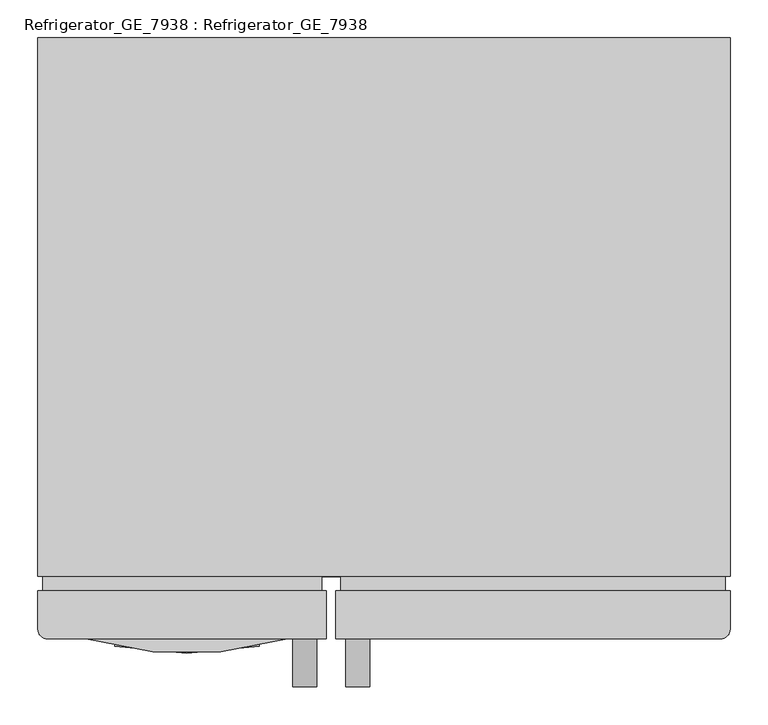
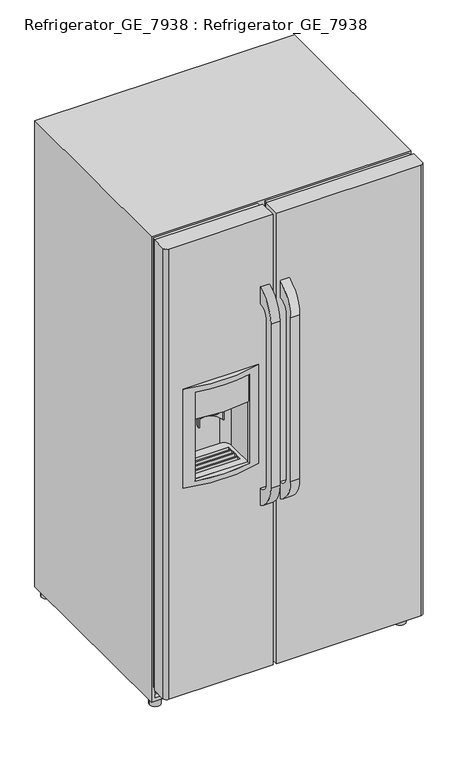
"""IFC4 building model written with IfcOpenShell, lengths in millimetres: furniture geometry, Refrigerator_GE_7938 : Refrigerator_GE_7938."""

from ifc_helpers import new_model, si_unit, point, frame, frame_2d, origin, origin_with_axes, place, context, project, spatial, polyline, circle_curve, trimmed, segment, composite_curve, outline, extrude, source, transform, mapped, element, save
from ifc_brep_helpers import plane_surface, cylinder_surface, revolved_surface, advanced_brep


def refrigerator_ge_7938_refrigerator_ge_7938_6d497281(model_context):
    return source(origin(), model_context, "Body", "SolidModel", [
        extrude(outline(composite_curve([segment(trimmed(circle_curve(frame_2d((-379.839566, 106.3437411)), 19.05), [point((-398.889566, 106.3437411))], [point((-360.789566, 106.3437411))], False, "CARTESIAN"), True, "CONTINUOUS"), segment(trimmed(circle_curve(frame_2d((-379.839566, 106.3437411)), 19.05), [point((-360.789566, 106.3437411))], [point((-398.889566, 106.3437411))], False, "CARTESIAN"), True, "CONTINUOUS")], self_intersect=False)), origin_with_axes(), (0.0, 0.0, 1.0), 25.4),
        extrude(outline(composite_curve([segment(trimmed(circle_curve(frame_2d((483.760434, 106.3437411)), 19.05), [point((464.710434, 106.3437411))], [point((502.810434, 106.3437411))], False, "CARTESIAN"), True, "CONTINUOUS"), segment(trimmed(circle_curve(frame_2d((483.760434, 106.3437411)), 19.05), [point((502.810434, 106.3437411))], [point((464.710434, 106.3437411))], False, "CARTESIAN"), True, "CONTINUOUS")], self_intersect=False)), origin_with_axes(), (0.0, 0.0, 1.0), 25.4),
        extrude(outline(composite_curve([segment(trimmed(circle_curve(frame_2d((-379.839566, 766.7437411)), 19.05), [point((-398.889566, 766.7437411))], [point((-360.789566, 766.7437411))], False, "CARTESIAN"), True, "CONTINUOUS"), segment(trimmed(circle_curve(frame_2d((-379.839566, 766.7437411)), 19.05), [point((-360.789566, 766.7437411))], [point((-398.889566, 766.7437411))], False, "CARTESIAN"), True, "CONTINUOUS")], self_intersect=False)), origin_with_axes(), (0.0, 0.0, 1.0), 25.4),
        extrude(outline(composite_curve([segment(trimmed(circle_curve(frame_2d((483.760434, 766.7437411)), 19.05), [point((464.710434, 766.7437411))], [point((502.810434, 766.7437411))], False, "CARTESIAN"), True, "CONTINUOUS"), segment(trimmed(circle_curve(frame_2d((483.760434, 766.7437411)), 19.05), [point((502.810434, 766.7437411))], [point((464.710434, 766.7437411))], False, "CARTESIAN"), True, "CONTINUOUS")], self_intersect=False)), origin_with_axes(), (0.0, 0.0, 1.0), 25.4),
        advanced_brep(
        [(-76.2, 0.0, 1219.2), (-342.9, 0.0, 1219.2), (-76.2, 0.0, 850.9), (-342.9, 0.0, 850.9), (-304.8, 0.0, 1200.15), (-304.8, 0.0, 869.95), (-114.3, 0.0, 869.95), (-114.3, 0.0, 1200.15), (-304.8, -9.427796, 869.95), (-304.8, -9.427796, 1200.15), (-114.3, -9.427796, 1200.15), (-114.3, -9.427796, 869.95)],
        [
            (0, 1),
            (1, 0, circle_curve(frame((-209.55, 457.2, 1219.2), z_axis=(0.0, 0.0, 1.0), x_axis=(1.0, 0.0, 0.0)), 476.25)),
            (2, 3, circle_curve(frame((-209.55, 457.2, 850.9), z_axis=(0.0, 0.0, -1.0), x_axis=(1.0, 0.0, 0.0)), 476.25)),
            (3, 2),
            (0, 2),
            (3, 1),
            (4, 5),
            (5, 6),
            (6, 7),
            (7, 4),
            (8, 9),
            (9, 10, circle_curve(frame((-209.55, 457.2, 1200.15), z_axis=(0.0, 0.0, 1.0), x_axis=(1.0, 0.0, 0.0)), 476.25)),
            (10, 11),
            (11, 8, circle_curve(frame((-209.55, 457.2, 869.95), z_axis=(0.0, 0.0, -1.0), x_axis=(1.0, 0.0, 0.0)), 476.25)),
            (8, 5),
            (4, 9),
            (7, 10),
            (6, 11),
        ],
        [
            plane_surface(frame((-76.2, 0.0, 1219.2), z_axis=(0.0, 0.0, 1.0), x_axis=(-1.0, 0.0, 0.0))),
            plane_surface(frame((-76.2, 0.0, 850.9), z_axis=(0.0, 0.0, -1.0), x_axis=(1.0, 0.0, 0.0))),
            plane_surface(frame((-76.2, 0.0, 1219.2), z_axis=(0.0, 1.0, 0.0), x_axis=(0.0, 0.0, -1.0))),
            cylinder_surface(frame((-209.55, 457.2, 850.9), z_axis=(0.0, 0.0, 1.0), x_axis=(1.0, 0.0, 0.0)), 476.25),
            plane_surface(frame((-304.8, 0.0, 869.95), z_axis=(1.0, 0.0, 0.0), x_axis=(0.0, -1.0, 0.0))),
            plane_surface(frame((-304.8, 0.0, 1200.15), z_axis=(0.0, 0.0, -1.0), x_axis=(0.0, -1.0, 0.0))),
            plane_surface(frame((-114.3, 0.0, 1200.15), z_axis=(-1.0, 0.0, 0.0), x_axis=(0.0, -1.0, 0.0))),
            plane_surface(frame((-114.3, 0.0, 869.95), z_axis=(0.0, 0.0, 1.0), x_axis=(0.0, -1.0, 0.0))),
        ],
        [
            (0, [[1, 2]]),
            (1, [[3, 4]]),
            (2, [[-1, 5, -4, 6], [7, 8, 9, 10]]),
            (3, [[-2, -6, -3, -5], [11, 12, 13, 14]]),
            (4, [[15, -7, 16, -11]]),
            (5, [[-16, -10, 17, -12]]),
            (6, [[-17, -9, 18, -13]]),
            (7, [[-15, -14, -18, -8]]),
        ],
    ),
        advanced_brep(
        [(-25.4, 63.5, 1758.95), (-406.4, 63.5, 1758.95), (-406.4, 12.7, 1758.95), (-393.7, 0.0, 1758.95), (-25.4, 0.0, 1758.95), (-25.4, 63.5, 82.55), (-25.4, 0.0, 82.55), (-393.7, 0.0, 82.55), (-406.4, 12.7, 82.55), (-406.4, 63.5, 82.55), (-307.975, 63.5, 850.9), (-111.125, 63.5, 850.9), (-111.125, 63.5, 1098.55), (-307.975, 63.5, 1098.55), (-111.125, 0.0, 850.9), (-307.975, 0.0, 850.9), (-307.975, 0.0, 1098.55), (-304.8, 0.0, 1098.55), (-114.3, 0.0, 1098.55), (-111.125, 0.0, 1098.55)],
        [
            (0, 1),
            (1, 2),
            (2, 3, circle_curve(frame((-393.7, 12.7, 1758.95), z_axis=(0.0, 0.0, 1.0), x_axis=(1.0, 0.0, 0.0)), 12.7)),
            (3, 4),
            (4, 0),
            (5, 6),
            (6, 7),
            (7, 8, circle_curve(frame((-393.7, 12.7, 82.55), z_axis=(0.0, 0.0, -1.0), x_axis=(1.0, 0.0, 0.0)), 12.7)),
            (8, 9),
            (9, 5),
            (0, 5),
            (9, 1),
            (10, 11),
            (11, 12),
            (12, 13),
            (13, 10),
            (8, 2),
            (7, 3),
            (6, 4),
            (14, 15),
            (15, 16),
            (16, 17),
            (17, 18),
            (18, 19),
            (19, 14),
            (14, 11),
            (10, 15),
            (16, 13),
            (12, 19),
        ],
        [
            plane_surface(frame((-25.4, 63.5, 1758.95), z_axis=(0.0, 0.0, 1.0), x_axis=(-1.0, 0.0, 0.0))),
            plane_surface(frame((-25.4, 63.5, 82.55), z_axis=(0.0, 0.0, -1.0), x_axis=(1.0, 0.0, 0.0))),
            plane_surface(frame((-25.4, 63.5, 1758.95), z_axis=(0.0, 1.0, 0.0), x_axis=(0.0, 0.0, -1.0))),
            plane_surface(frame((-406.4, 63.5, 1758.95), z_axis=(-1.0, 0.0, 0.0), x_axis=(0.0, 0.0, -1.0))),
            cylinder_surface(frame((-393.7, 12.7, 82.55), z_axis=(0.0, 0.0, 1.0), x_axis=(1.0, 0.0, 0.0)), 12.7),
            plane_surface(frame((-393.7, 0.0, 1758.95), z_axis=(0.0, -1.0, 0.0), x_axis=(0.0, 0.0, -1.0))),
            plane_surface(frame((-25.4, 0.0, 1758.95), z_axis=(1.0, 0.0, 0.0), x_axis=(0.0, 0.0, -1.0))),
            plane_surface(frame((-307.975, 0.0, 850.9), z_axis=(0.0, 0.0, 1.0), x_axis=(0.0, 1.0, 0.0))),
            plane_surface(frame((-307.975, 0.0, 1098.55), z_axis=(0.0, 0.0, -1.0), x_axis=(0.0, -1.0, 0.0))),
            plane_surface(frame((-307.975, 0.0, 850.9), z_axis=(1.0, 0.0, 0.0), x_axis=(0.0, 0.0, 1.0))),
            plane_surface(frame((-111.125, 101.6, 850.9), z_axis=(-1.0, 0.0, 0.0), x_axis=(0.0, 0.0, 1.0))),
        ],
        [
            (0, [[1, 2, 3, 4, 5]]),
            (1, [[6, 7, 8, 9, 10]]),
            (2, [[-1, 11, -10, 12], [13, 14, 15, 16]]),
            (3, [[-2, -12, -9, 17]]),
            (4, [[-3, -17, -8, 18]]),
            (5, [[-4, -18, -7, 19], [20, 21, 22, 23, 24, 25]]),
            (6, [[-5, -19, -6, -11]]),
            (7, [[26, -13, 27, -20]]),
            (8, [[28, -15, 29, -24, -23, -22]]),
            (9, [[-27, -16, -28, -21]]),
            (10, [[-26, -25, -29, -14]]),
        ],
    ),
        advanced_brep(
        [(-12.7, 63.5, 1758.95), (-12.7, 0.0, 1758.95), (495.3, 0.0, 1758.95), (508.0, 12.7, 1758.95), (508.0, 63.5, 1758.95), (-12.7, 63.5, 82.55), (508.0, 63.5, 82.55), (508.0, 12.7, 82.55), (495.3, 0.0, 82.55), (-12.7, 0.0, 82.55)],
        [
            (0, 1),
            (1, 2),
            (2, 3, circle_curve(frame((495.3, 12.7, 1758.95), z_axis=(0.0, 0.0, 1.0), x_axis=(1.0, 0.0, 0.0)), 12.7)),
            (3, 4),
            (4, 0),
            (5, 6),
            (6, 7),
            (7, 8, circle_curve(frame((495.3, 12.7, 82.55), z_axis=(0.0, 0.0, -1.0), x_axis=(1.0, 0.0, 0.0)), 12.7)),
            (8, 9),
            (9, 5),
            (0, 5),
            (9, 1),
            (8, 2),
            (7, 3),
            (6, 4),
        ],
        [
            plane_surface(frame((-25.4, 63.5, 1758.95), z_axis=(0.0, 0.0, 1.0), x_axis=(-1.0, 0.0, 0.0))),
            plane_surface(frame((-25.4, 63.5, 82.55), z_axis=(0.0, 0.0, -1.0), x_axis=(1.0, 0.0, 0.0))),
            plane_surface(frame((-12.7, 63.5, 1758.95), z_axis=(-1.0, 0.0, 0.0), x_axis=(0.0, 0.0, -1.0))),
            plane_surface(frame((-12.7, 0.0, 1758.95), z_axis=(0.0, -1.0, 0.0), x_axis=(0.0, 0.0, -1.0))),
            cylinder_surface(frame((495.3, 12.7, 82.55), z_axis=(0.0, 0.0, 1.0), x_axis=(1.0, 0.0, 0.0)), 12.7),
            plane_surface(frame((508.0, 12.7, 1758.95), z_axis=(1.0, 0.0, 0.0), x_axis=(0.0, 0.0, -1.0))),
            plane_surface(frame((508.0, 63.5, 1758.95), z_axis=(0.0, 1.0, 0.0), x_axis=(0.0, 0.0, -1.0))),
        ],
        [
            (0, [[1, 2, 3, 4, 5]]),
            (1, [[6, 7, 8, 9, 10]]),
            (2, [[-1, 11, -10, 12]]),
            (3, [[-2, -12, -9, 13]]),
            (4, [[-3, -13, -8, 14]]),
            (5, [[-4, -14, -7, 15]]),
            (6, [[-5, -15, -6, -11]]),
        ],
    ),
        extrude(outline(polyline([(1752.6, -31.75), (1752.6, -400.05), (82.55, -400.05), (82.55, -31.75), (1752.6, -31.75)]), holes=[polyline([(850.9, -111.125), (850.9, -307.975), (1098.55, -307.975), (1098.55, -111.125), (850.9, -111.125)])]), frame((0.0, 63.5, 0.0), z_axis=(0.0, 1.0, 0.0), x_axis=(0.0, 0.0, 1.0)), (0.0, 0.0, 1.0), 19.05),
        extrude(outline(polyline([(-6.35, 63.5), (-6.35, 82.55), (501.65, 82.55), (501.65, 63.5), (-6.35, 63.5)])), frame((0.0, 0.0, 82.55), z_axis=(0.0, 0.0, 1.0), x_axis=(1.0, 0.0, 0.0)), (0.0, 0.0, 1.0), 1670.05),
        advanced_brep(
        [(508.0, 793.75, 1758.95), (-406.4, 793.75, 1758.95), (-406.4, 82.55, 1758.95), (508.0, 82.55, 1758.95), (508.0, 793.75, 25.4), (508.0, 82.55, 25.4), (-406.4, 82.55, 25.4), (-406.4, 793.75, 25.4), (-111.125, 82.55, 850.9), (-307.975, 82.55, 850.9), (-307.975, 82.55, 1098.55), (-111.125, 82.55, 1098.55), (495.3, 82.55, 38.1), (-393.7, 82.55, 38.1), (-393.7, 82.55, 50.8), (495.3, 82.55, 50.8), (495.3, 82.55, 57.15), (-393.7, 82.55, 57.15), (-393.7, 82.55, 69.85), (495.3, 82.55, 69.85), (-111.125, 101.6, 850.9), (-139.7, 130.175, 850.9), (-279.4, 130.175, 850.9), (-307.975, 101.6, 850.9), (-307.975, 101.6, 1098.55), (-279.4, 130.175, 1098.55), (-139.7, 130.175, 1098.55), (-111.125, 101.6, 1098.55), (-393.7, 107.95, 38.1), (495.3, 107.95, 38.1), (495.3, 107.95, 50.8), (-393.7, 107.95, 50.8), (-393.7, 107.95, 57.15), (495.3, 107.95, 57.15), (495.3, 107.95, 69.85), (-393.7, 107.95, 69.85)],
        [
            (0, 1),
            (1, 2),
            (2, 3),
            (3, 0),
            (4, 5),
            (5, 6),
            (6, 7),
            (7, 4),
            (0, 4),
            (7, 1),
            (6, 2),
            (5, 3),
            (8, 9),
            (9, 10),
            (10, 11),
            (11, 8),
            (12, 13),
            (13, 14),
            (14, 15),
            (15, 12),
            (16, 17),
            (17, 18),
            (18, 19),
            (19, 16),
            (20, 21, circle_curve(frame((-139.7, 101.6, 850.9), z_axis=(0.0, 0.0, 1.0), x_axis=(1.0, 0.0, 0.0)), 28.575)),
            (21, 22),
            (22, 23, circle_curve(frame((-279.4, 101.6, 850.9), z_axis=(0.0, 0.0, 1.0), x_axis=(1.0, 0.0, 0.0)), 28.575)),
            (23, 9),
            (8, 20),
            (24, 25, circle_curve(frame((-279.4, 101.6, 1098.55), z_axis=(0.0, 0.0, -1.0), x_axis=(1.0, 0.0, 0.0)), 28.575)),
            (25, 26),
            (26, 27, circle_curve(frame((-139.7, 101.6, 1098.55), z_axis=(0.0, 0.0, -1.0), x_axis=(1.0, 0.0, 0.0)), 28.575)),
            (27, 11),
            (10, 24),
            (23, 24),
            (22, 25),
            (21, 26),
            (20, 27),
            (28, 29),
            (29, 30),
            (30, 31),
            (31, 28),
            (32, 33),
            (33, 34),
            (34, 35),
            (35, 32),
            (28, 13),
            (12, 29),
            (15, 30),
            (14, 31),
            (32, 17),
            (16, 33),
            (19, 34),
            (18, 35),
        ],
        [
            plane_surface(frame((-406.4, 793.75, 1758.95), z_axis=(0.0, 0.0, 1.0), x_axis=(-1.0, 0.0, 0.0))),
            plane_surface(frame((-406.4, 793.75, 25.4), z_axis=(0.0, 0.0, -1.0), x_axis=(1.0, 0.0, 0.0))),
            plane_surface(frame((508.0, 793.75, 1758.95), z_axis=(0.0, 1.0, 0.0), x_axis=(0.0, 0.0, -1.0))),
            plane_surface(frame((-406.4, 793.75, 1758.95), z_axis=(-1.0, 0.0, 0.0), x_axis=(0.0, 0.0, -1.0))),
            plane_surface(frame((-406.4, 82.55, 1758.95), z_axis=(0.0, -1.0, 0.0), x_axis=(0.0, 0.0, -1.0))),
            plane_surface(frame((508.0, 82.55, 1758.95), z_axis=(1.0, 0.0, 0.0), x_axis=(0.0, 0.0, -1.0))),
            plane_surface(frame((-307.975, 0.0, 850.9), z_axis=(0.0, 0.0, 1.0), x_axis=(0.0, 1.0, 0.0))),
            plane_surface(frame((-307.975, 0.0, 1098.55), z_axis=(0.0, 0.0, -1.0), x_axis=(0.0, -1.0, 0.0))),
            plane_surface(frame((-307.975, 0.0, 850.9), z_axis=(1.0, 0.0, 0.0), x_axis=(0.0, 0.0, 1.0))),
            revolved_surface(polyline([(-250.825, 101.6, 850.9), (-250.825, 101.6, 1098.55)]), (-279.4, 101.6, 1098.55), (0.0, 0.0, -1.0)),
            plane_surface(frame((-279.4, 130.175, 850.9), z_axis=(0.0, -1.0, 0.0), x_axis=(0.0, 0.0, 1.0))),
            revolved_surface(polyline([(-111.12499999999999, 101.6, 850.9), (-111.12499999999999, 101.6, 1098.55)]), (-139.7, 101.6, 1098.55), (0.0, 0.0, -1.0)),
            plane_surface(frame((-111.125, 101.6, 850.9), z_axis=(-1.0, 0.0, 0.0), x_axis=(0.0, 0.0, 1.0))),
            plane_surface(frame((-406.4, 107.95, 38.1), z_axis=(0.0, -1.0, 0.0), x_axis=(-1.0, 0.0, 0.0))),
            plane_surface(frame((-393.7, 82.55, 38.1), z_axis=(0.0, 0.0, 1.0), x_axis=(0.0, 1.0, 0.0))),
            plane_surface(frame((495.3, 82.55, 38.1), z_axis=(-1.0, 0.0, 0.0), x_axis=(0.0, 1.0, 0.0))),
            plane_surface(frame((495.3, 82.55, 50.8), z_axis=(0.0, 0.0, -1.0), x_axis=(0.0, 1.0, 0.0))),
            plane_surface(frame((-393.7, 82.55, 50.8), z_axis=(1.0, 0.0, 0.0), x_axis=(0.0, 1.0, 0.0))),
            plane_surface(frame((-393.7, 82.55, 57.15), z_axis=(0.0, 0.0, 1.0), x_axis=(0.0, 1.0, 0.0))),
            plane_surface(frame((495.3, 82.55, 57.15), z_axis=(-1.0, 0.0, 0.0), x_axis=(0.0, 1.0, 0.0))),
            plane_surface(frame((495.3, 82.55, 69.85), z_axis=(0.0, 0.0, -1.0), x_axis=(0.0, 1.0, 0.0))),
            plane_surface(frame((-393.7, 82.55, 69.85), z_axis=(1.0, 0.0, 0.0), x_axis=(0.0, 1.0, 0.0))),
        ],
        [
            (0, [[1, 2, 3, 4]]),
            (1, [[5, 6, 7, 8]]),
            (2, [[-1, 9, -8, 10]]),
            (3, [[-2, -10, -7, 11]]),
            (4, [[-3, -11, -6, 12], [13, 14, 15, 16], [17, 18, 19, 20], [21, 22, 23, 24]]),
            (5, [[-4, -12, -5, -9]]),
            (6, [[25, 26, 27, 28, -13, 29]]),
            (7, [[30, 31, 32, 33, -15, 34]]),
            (8, [[35, -34, -14, -28]]),
            (9, [[-27, 36, -30, -35]]),
            (10, [[-26, 37, -31, -36]]),
            (11, [[-25, 38, -32, -37]]),
            (12, [[-38, -29, -16, -33]]),
            (13, [[39, 40, 41, 42]]),
            (13, [[43, 44, 45, 46]]),
            (14, [[-39, 47, -17, 48]]),
            (15, [[-40, -48, -20, 49]]),
            (16, [[-41, -49, -19, 50]]),
            (17, [[-42, -50, -18, -47]]),
            (18, [[-43, 51, -21, 52]]),
            (19, [[-44, -52, -24, 53]]),
            (20, [[-45, -53, -23, 54]]),
            (21, [[-46, -54, -22, -51]]),
        ],
    ),
        extrude(outline(composite_curve([segment(polyline([(-63.5, 793.75), (-63.5, 1403.35)]), True, "CONTINUOUS"), segment(trimmed(circle_curve(frame_2d((49.53, 1403.35)), 113.03), [point((-63.5, 1403.35))], [point((0.0, 1504.95))], False, "CARTESIAN"), True, "CONTINUOUS"), segment(polyline([(0.0, 1504.95), (0.0, 1441.45)]), True, "CONTINUOUS"), segment(trimmed(circle_curve(frame_2d((0.0, 1403.35)), 38.1), [point((0.0, 1441.45))], [point((-38.1, 1403.35))], True, "CARTESIAN"), True, "CONTINUOUS"), segment(polyline([(-38.1, 1403.35), (-38.1, 793.75)]), True, "CONTINUOUS"), segment(trimmed(circle_curve(frame_2d((0.0, 793.75)), 38.1), [point((-38.1, 793.75))], [point((0.0, 755.65))], True, "CARTESIAN"), True, "CONTINUOUS"), segment(polyline([(0.0, 755.65), (0.0, 692.15)]), True, "CONTINUOUS"), segment(trimmed(circle_curve(frame_2d((49.53, 793.75)), 113.03), [point((0.0, 692.15))], [point((-63.5, 793.75))], False, "CARTESIAN"), True, "CONTINUOUS")], self_intersect=False)), frame((-69.85, 0.0, 0.0), z_axis=(1.0, 0.0, 0.0), x_axis=(0.0, 1.0, 0.0)), (0.0, 0.0, 1.0), 31.75),
        extrude(outline(composite_curve([segment(polyline([(-63.5, 793.75), (-63.5, 1403.35)]), True, "CONTINUOUS"), segment(trimmed(circle_curve(frame_2d((49.53, 1403.35)), 113.03), [point((-63.5, 1403.35))], [point((0.0, 1504.95))], False, "CARTESIAN"), True, "CONTINUOUS"), segment(polyline([(0.0, 1504.95), (0.0, 1441.45)]), True, "CONTINUOUS"), segment(trimmed(circle_curve(frame_2d((0.0, 1403.35)), 38.1), [point((0.0, 1441.45))], [point((-38.1, 1403.35))], True, "CARTESIAN"), True, "CONTINUOUS"), segment(polyline([(-38.1, 1403.35), (-38.1, 793.75)]), True, "CONTINUOUS"), segment(trimmed(circle_curve(frame_2d((0.0, 793.75)), 38.1), [point((-38.1, 793.75))], [point((0.0, 755.65))], True, "CARTESIAN"), True, "CONTINUOUS"), segment(polyline([(0.0, 755.65), (0.0, 692.15)]), True, "CONTINUOUS"), segment(trimmed(circle_curve(frame_2d((49.53, 793.75)), 113.03), [point((0.0, 692.15))], [point((-63.5, 793.75))], False, "CARTESIAN"), True, "CONTINUOUS")], self_intersect=False)), frame((0.0, 0.0, 0.0), z_axis=(1.0, 0.0, 0.0), x_axis=(0.0, 1.0, 0.0)), (0.0, 0.0, 1.0), 31.75),
        extrude(outline(composite_curve([segment(trimmed(circle_curve(frame_2d((-209.55, 57.15)), 41.275), [point((-168.275, 57.15))], [point((-250.825, 57.15))], True, "CARTESIAN"), True, "CONTINUOUS"), segment(polyline([(-250.825, 57.15), (-254.0, 57.15)]), True, "CONTINUOUS"), segment(trimmed(circle_curve(frame_2d((-209.55, 57.15)), 44.45), [point((-254.0, 57.15))], [point((-165.1, 57.15))], False, "CARTESIAN"), True, "CONTINUOUS"), segment(polyline([(-165.1, 57.15), (-168.275, 57.15)]), True, "CONTINUOUS")], self_intersect=False)), frame((0.0, 0.0, 1009.65), z_axis=(0.0, 0.0, 1.0), x_axis=(1.0, 0.0, 0.0)), (0.0, 0.0, 1.0), 88.9),
        extrude(outline(composite_curve([segment(trimmed(circle_curve(frame_2d((-209.55, 57.15)), 28.575), [point((-238.125, 57.15))], [point((-180.975, 57.15))], False, "CARTESIAN"), True, "CONTINUOUS"), segment(trimmed(circle_curve(frame_2d((-209.55, 57.15)), 28.575), [point((-180.975, 57.15))], [point((-238.125, 57.15))], False, "CARTESIAN"), True, "CONTINUOUS")], self_intersect=False), holes=[composite_curve([segment(trimmed(circle_curve(frame_2d((-209.55, 57.15)), 25.4), [point((-234.95, 57.15))], [point((-184.15, 57.15))], True, "CARTESIAN"), True, "CONTINUOUS"), segment(trimmed(circle_curve(frame_2d((-209.55, 57.15)), 25.4), [point((-184.15, 57.15))], [point((-234.95, 57.15))], True, "CARTESIAN"), True, "CONTINUOUS")], self_intersect=False)]), frame((0.0, 0.0, 1060.45), z_axis=(0.0, 0.0, 1.0), x_axis=(1.0, 0.0, 0.0)), (0.0, 0.0, 1.0), 38.1),
        extrude(outline(composite_curve([segment(trimmed(circle_curve(frame_2d((-209.55, 457.2)), 473.075), [point((-114.3, -6.186872))], [point((-304.8, -6.186872))], False, "CARTESIAN"), True, "CONTINUOUS"), segment(polyline([(-304.8, -6.186872), (-304.8, 0.0), (-114.3, 0.0), (-114.3, -6.186872)]), True, "CONTINUOUS")], self_intersect=False)), frame((0.0, 0.0, 1098.55), z_axis=(0.0, 0.0, 1.0), x_axis=(1.0, 0.0, 0.0)), (0.0, 0.0, 1.0), 101.6),
        extrude(outline(composite_curve([segment(polyline([(-114.3, 0.0), (-304.8, 0.0), (-304.8, 101.6)]), True, "CONTINUOUS"), segment(trimmed(circle_curve(frame_2d((-279.4, 101.6)), 25.4), [point((-304.8, 101.6))], [point((-279.4, 127.0))], False, "CARTESIAN"), True, "CONTINUOUS"), segment(polyline([(-279.4, 127.0), (-139.7, 127.0)]), True, "CONTINUOUS"), segment(trimmed(circle_curve(frame_2d((-139.7, 101.6)), 25.4), [point((-139.7, 127.0))], [point((-114.3, 101.6))], False, "CARTESIAN"), True, "CONTINUOUS"), segment(polyline([(-114.3, 101.6), (-114.3, 0.0)]), True, "CONTINUOUS")], self_intersect=False), holes=[polyline([(-127.0, 25.4), (-127.0, 38.1), (-292.1, 38.1), (-292.1, 25.4), (-127.0, 25.4)]), polyline([(-127.0, 44.45), (-127.0, 57.15), (-292.1, 57.15), (-292.1, 44.45), (-127.0, 44.45)]), polyline([(-127.0, 63.5), (-127.0, 76.2), (-292.1, 76.2), (-292.1, 63.5), (-127.0, 63.5)]), polyline([(-127.0, 82.55), (-127.0, 95.25), (-292.1, 95.25), (-292.1, 82.55), (-127.0, 82.55)])]), frame((0.0, 0.0, 850.9), z_axis=(0.0, 0.0, 1.0), x_axis=(1.0, 0.0, 0.0)), (0.0, 0.0, 1.0), 19.05),
        extrude(outline(composite_curve([segment(trimmed(circle_curve(frame_2d((-279.4, 101.6)), 28.575), [point((-307.975, 101.6))], [point((-279.4, 130.175))], False, "CARTESIAN"), True, "CONTINUOUS"), segment(polyline([(-279.4, 130.175), (-139.7, 130.175)]), True, "CONTINUOUS"), segment(trimmed(circle_curve(frame_2d((-139.7, 101.6)), 28.575), [point((-139.7, 130.175))], [point((-111.125, 101.6))], False, "CARTESIAN"), True, "CONTINUOUS"), segment(polyline([(-111.125, 101.6), (-111.125, 0.0), (-114.3, 0.0), (-114.3, 101.6)]), True, "CONTINUOUS"), segment(trimmed(circle_curve(frame_2d((-139.7, 101.6)), 25.4), [point((-114.3, 101.6))], [point((-139.7, 127.0))], True, "CARTESIAN"), True, "CONTINUOUS"), segment(polyline([(-139.7, 127.0), (-279.4, 127.0)]), True, "CONTINUOUS"), segment(trimmed(circle_curve(frame_2d((-279.4, 101.6)), 25.4), [point((-279.4, 127.0))], [point((-304.8, 101.6))], True, "CARTESIAN"), True, "CONTINUOUS"), segment(polyline([(-304.8, 101.6), (-304.8, 0.0), (-307.975, 0.0), (-307.975, 101.6)]), True, "CONTINUOUS")], self_intersect=False)), frame((0.0, 0.0, 850.9), z_axis=(0.0, 0.0, 1.0), x_axis=(1.0, 0.0, 0.0)), (0.0, 0.0, 1.0), 247.65),
    ])


if __name__ == "__main__":
    model = new_model("IFC4")
    model_context = context("Model", 3, world=origin())
    ifc_project = project(units=[si_unit("LENGTHUNIT", "METRE", prefix="MILLI")], contexts=[model_context])
    site = spatial("IfcSite", under=ifc_project)
    building = spatial("IfcBuilding", under=site)
    placement = place(None, origin())
    refrigerator_ge_7938_refrigerator_ge_7938_shape = refrigerator_ge_7938_refrigerator_ge_7938_6d497281(model_context)
    element("IfcFurniture", 1, ObjectType="Refrigerator_GE_7938 : Refrigerator_GE_7938", at=placement, inside=building, context=model_context, shape_type="MappedRepresentation", body=[
        mapped(refrigerator_ge_7938_refrigerator_ge_7938_shape, transform((0.0, 0.0, 0.0), x_axis=(1.0, 0.0, 0.0), y_axis=(0.0, 1.0, 0.0), z_axis=(0.0, 0.0, 1.0))),
    ])
    save(model, "model.ifc")
